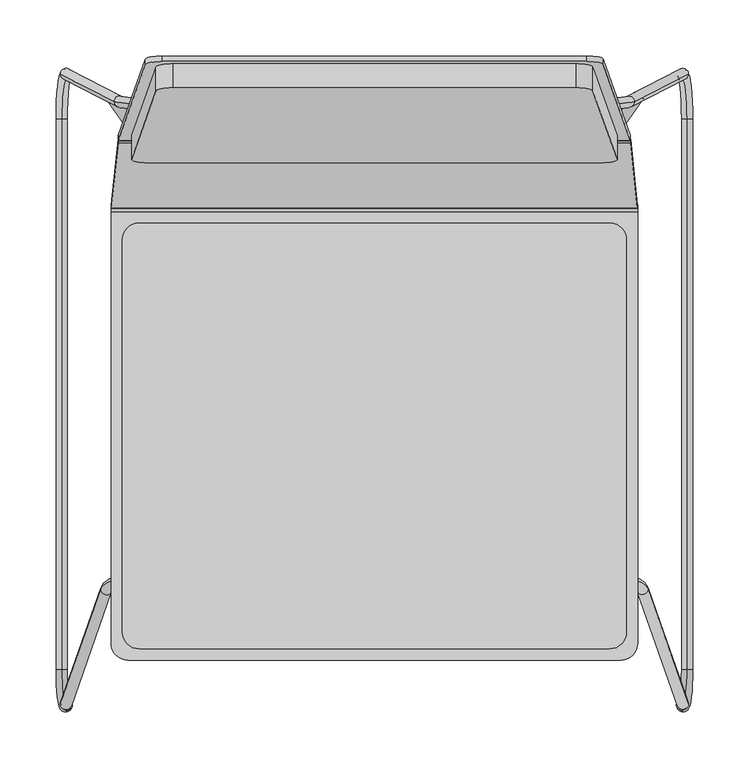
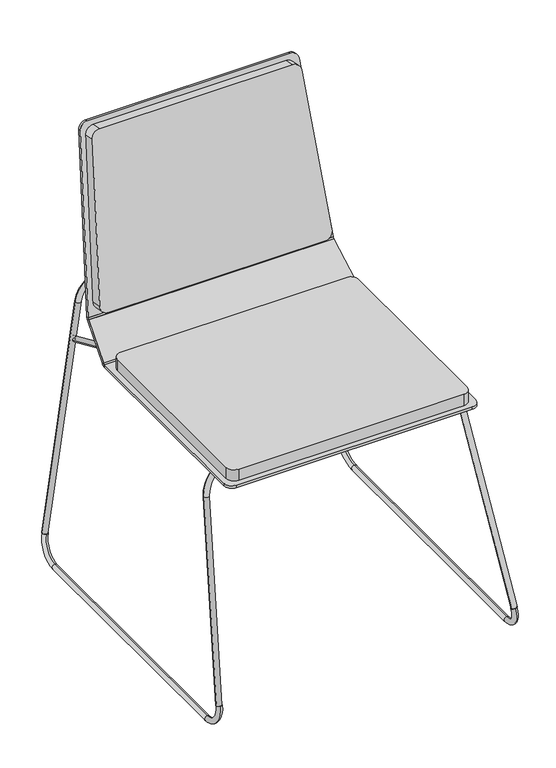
"""IFC4 building model written with IfcOpenShell, lengths in millimetres: furniture geometry, Tom Collection_D : Tom Collection_D."""

from ifc_helpers import new_model, si_unit, point, frame, frame_2d, origin, place, context, project, spatial, polyline, circle_curve, ellipse_curve, trimmed, segment, composite_curve, outline, extrude, source, transform, mapped, element, save
from ifc_brep_helpers import plane_surface, cylinder_surface, revolved_surface, advanced_brep


def furniture_161f1afd(model_context):
    return source(origin(), model_context, "Body", "SolidModel", [
        extrude(outline(composite_curve([segment(polyline([(151.3800041, 160.6409729), (151.3800041, 180.6409694), (178.3800821, 180.6409694)]), True, "CONTINUOUS"), segment(trimmed(circle_curve(frame_2d((178.3800821, 175.6409658)), 5.0000037), [point((178.3800821, 180.6409694))], [point((183.3800858, 175.6409658))], False, "CARTESIAN"), True, "CONTINUOUS"), segment(polyline([(183.3800858, 175.6409658), (183.3800858, 165.6409584)]), True, "CONTINUOUS"), segment(trimmed(circle_curve(frame_2d((178.3801003, 165.6409584)), 4.9999855), [point((183.3800858, 165.6409584))], [point((178.3801003, 160.6409729))], False, "CARTESIAN"), True, "CONTINUOUS"), segment(polyline([(178.3801003, 160.6409729), (151.3800041, 160.6409729)]), True, "CONTINUOUS")], self_intersect=False)), frame((0.0, 0.0, 422.5198024), z_axis=(0.0, 0.0, 1.0), x_axis=(1.0, 0.0, 0.0)), (0.0, 0.0, 1.0), 5.4801849),
        extrude(outline(composite_curve([segment(polyline([(-151.3198334, 160.6409729), (-178.3199295, 160.6409729)]), True, "CONTINUOUS"), segment(trimmed(circle_curve(frame_2d((-178.3199295, 165.6409584)), 4.9999855), [point((-178.3199295, 160.6409729))], [point((-183.319915, 165.6409584))], False, "CARTESIAN"), True, "CONTINUOUS"), segment(polyline([(-183.319915, 165.6409584), (-183.319915, 175.6409658)]), True, "CONTINUOUS"), segment(trimmed(circle_curve(frame_2d((-178.3199113, 175.6409658)), 5.0000037), [point((-183.319915, 175.6409658))], [point((-178.3199113, 180.6409694))], False, "CARTESIAN"), True, "CONTINUOUS"), segment(polyline([(-178.3199113, 180.6409694), (-151.3198334, 180.6409694), (-151.3198334, 160.6409729)]), True, "CONTINUOUS")], self_intersect=False)), frame((0.0, 0.0, 422.5198024), z_axis=(0.0, 0.0, 1.0), x_axis=(1.0, 0.0, 0.0)), (0.0, 0.0, 1.0), 5.4801849),
        extrude(outline(composite_curve([segment(polyline([(-104.9999863, -98.9122531), (-104.9999863, -131.8925156)]), True, "CONTINUOUS"), segment(trimmed(circle_curve(frame_2d((-109.9999718, -131.8925156)), 4.9999855), [point((-104.9999863, -131.8925156))], [point((-109.9999718, -136.8925011))], False, "CARTESIAN"), True, "CONTINUOUS"), segment(polyline([(-109.9999718, -136.8925011), (-119.9999428, -136.8925011)]), True, "CONTINUOUS"), segment(trimmed(circle_curve(frame_2d((-119.9999428, -131.8925156)), 4.9999855), [point((-119.9999428, -136.8925011))], [point((-124.9999283, -131.8925156))], False, "CARTESIAN"), True, "CONTINUOUS"), segment(polyline([(-124.9999283, -131.8925156), (-124.9999283, -98.9122531), (-104.9999863, -98.9122531)]), True, "CONTINUOUS")], self_intersect=False), holes=[polyline([(-114.9999573, -122.8925199), (-119.0000038, -126.8924938), (-114.9999573, -130.892504), (-110.9999107, -126.8924938), (-114.9999573, -122.8925199)])]), frame((0.0, 0.0, 422.5198024), z_axis=(0.0, 0.0, 1.0), x_axis=(1.0, 0.0, 0.0)), (0.0, 0.0, 1.0), 5.4801849),
        extrude(outline(composite_curve([segment(polyline([(124.9999283, -104.7493686), (124.9999283, -131.8925156)]), True, "CONTINUOUS"), segment(trimmed(circle_curve(frame_2d((119.9999428, -131.8925156)), 4.9999855), [point((124.9999283, -131.8925156))], [point((119.9999428, -136.8925011))], False, "CARTESIAN"), True, "CONTINUOUS"), segment(polyline([(119.9999428, -136.8925011), (109.9999718, -136.8925011)]), True, "CONTINUOUS"), segment(trimmed(circle_curve(frame_2d((109.9999718, -131.8925156)), 4.9999855), [point((109.9999718, -136.8925011))], [point((104.9999863, -131.8925156))], False, "CARTESIAN"), True, "CONTINUOUS"), segment(polyline([(104.9999863, -131.8925156), (104.9999863, -104.7493686), (124.9999283, -104.7493686)]), True, "CONTINUOUS")], self_intersect=False), holes=[polyline([(114.9999573, -122.8925199), (110.9999107, -126.8924938), (114.9999573, -130.892504), (119.0000038, -126.8924938), (114.9999573, -122.8925199)])]), frame((0.0, 0.0, 422.5198024), z_axis=(0.0, 0.0, 1.0), x_axis=(1.0, 0.0, 0.0)), (0.0, 0.0, 1.0), 5.4801849),
        extrude(outline(composite_curve([segment(trimmed(circle_curve(frame_2d((422.9704013, -145.8968655)), 5.0), [point((422.9704013, -150.8968655))], [point((422.9704013, -140.8968655))], False, "CARTESIAN"), True, "CONTINUOUS"), segment(trimmed(circle_curve(frame_2d((422.9704013, -145.8968655)), 5.0), [point((422.9704013, -140.8968655))], [point((422.9704013, -150.8968655))], False, "CARTESIAN"), True, "CONTINUOUS")], self_intersect=False)), frame((0.0, -98.9122531, 0.0), z_axis=(0.0, 1.0, 0.0), x_axis=(0.0, 0.0, 1.0)), (0.0, 0.0, 1.0), 298.3148704),
        extrude(outline(composite_curve([segment(trimmed(circle_curve(frame_2d((422.9704013, 145.8963197)), 5.0), [point((422.9704013, 140.8963197))], [point((422.9704013, 150.8963197))], False, "CARTESIAN"), True, "CONTINUOUS"), segment(trimmed(circle_curve(frame_2d((422.9704013, 145.8963197)), 5.0), [point((422.9704013, 150.8963197))], [point((422.9704013, 140.8963197))], False, "CARTESIAN"), True, "CONTINUOUS")], self_intersect=False)), frame((0.0, -98.9122531, 0.0), z_axis=(0.0, 1.0, 0.0), x_axis=(0.0, 0.0, 1.0)), (0.0, 0.0, 1.0), 298.3148704),
        advanced_brep(
        [(-238.920603, 325.3957491, 422.9656305), (-230.7160286, 331.1128252, 422.9656305), (-148.4821106, 195.6074924, 422.9656305), (-143.2619447, 205.6074924, 422.9656305), (148.5817805, 195.6074924, 422.9656305), (143.37611, 205.6074924, 422.9656305), (240.2047177, 326.4586075, 422.9656305), (232.0131973, 332.1943718, 422.9656305)],
        [
            (0, 1, circle_curve(frame((-234.8183158, 328.2542871, 422.9656305), z_axis=(-0.5717076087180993, 0.8204574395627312, 0.0), x_axis=(0.8204574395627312, 0.5717076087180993, 0.0)), 5.0)),
            (1, 0, circle_curve(frame((-234.8183158, 328.2542871, 422.9656305), z_axis=(-0.5717076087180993, 0.8204574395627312, 0.0), x_axis=(0.8204574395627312, 0.5717076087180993, 0.0)), 5.0)),
            (0, 2),
            (2, 3, ellipse_curve(frame((-145.8720276, 200.6074924, 422.9656305), z_axis=(-0.8864839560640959, 0.462759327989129, 0.0), x_axis=(0.4627593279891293, 0.8864839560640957, 0.0)), 5.64026, 5.0)),
            (3, 1),
            (3, 2, ellipse_curve(frame((-145.8720276, 200.6074924, 422.9656305), z_axis=(-0.8864839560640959, 0.462759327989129, 0.0), x_axis=(0.4627593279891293, 0.8864839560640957, 0.0)), 5.64026, 5.0)),
            (2, 4),
            (4, 5, ellipse_curve(frame((145.9789453, 200.6074924, 422.9656305), z_axis=(-0.8870108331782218, -0.46174861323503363, 0.0), x_axis=(-0.4617486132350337, 0.8870108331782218, 0.0)), 5.6369097, 5.0)),
            (5, 3),
            (5, 4, ellipse_curve(frame((145.9789453, 200.6074924, 422.9656305), z_axis=(-0.8870108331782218, -0.46174861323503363, 0.0), x_axis=(-0.4617486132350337, 0.8870108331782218, 0.0)), 5.6369097, 5.0)),
            (6, 7, circle_curve(frame((236.1089575, 329.3264897, 422.9656305), z_axis=(0.5735764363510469, 0.8191520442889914, 0.0), x_axis=(-0.8191520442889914, 0.5735764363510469, 0.0)), 5.0)),
            (7, 6, circle_curve(frame((236.1089575, 329.3264897, 422.9656305), z_axis=(0.5735764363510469, 0.8191520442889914, 0.0), x_axis=(-0.8191520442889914, 0.5735764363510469, 0.0)), 5.0)),
            (4, 6),
            (7, 5),
        ],
        [
            plane_surface(frame((-239.330832, 325.1098951, 2.765625), z_axis=(-0.5717076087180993, 0.8204574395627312, 0.0), x_axis=(0.0, 0.0, 1.0))),
            cylinder_surface(frame((-234.8183158, 328.2542871, 422.9656305), z_axis=(-0.5717076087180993, 0.8204574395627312, 0.0), x_axis=(0.8204574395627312, 0.5717076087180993, 0.0)), 5.0),
            cylinder_surface(frame((-148.7431191, 200.6074924, 422.9656305), z_axis=(-1.0, 0.0, 0.0), x_axis=(0.0, 1.0, 0.0)), 5.0),
            plane_surface(frame((240.6142941, 326.171819, 2.765625), z_axis=(0.5735764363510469, 0.8191520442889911, 0.0), x_axis=(0.0, 0.0, 1.0))),
            cylinder_surface(frame((144.3367277, 198.2621626, 422.9656305), z_axis=(-0.5735764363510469, -0.8191520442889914, 0.0), x_axis=(-0.8191520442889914, 0.5735764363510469, 0.0)), 5.0),
        ],
        [
            (0, [[1, 2]]),
            (1, [[-1, 3, 4, 5]]),
            (1, [[-2, -5, 6, -3]]),
            (2, [[-4, 7, 8, 9]]),
            (2, [[-6, -9, 10, -7]]),
            (3, [[11, 12]]),
            (4, [[-8, 13, -12, 14]]),
            (4, [[-10, -14, -11, -13]]),
        ],
    ),
        extrude(outline(polyline([(6.9942414, 0.0), (6.8397608, -6.9925099), (-0.1544552, -6.9925358), (0.0, 0.0), (6.9942414, 0.0)])), frame((-134.9998993, 331.7734736, 543.518617), z_axis=(0.0, -0.9781481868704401, 0.20790893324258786), x_axis=(0.7148717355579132, -0.1453814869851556, -0.6839756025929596)), (0.0, 0.0, 1.0), 14.9999995),
        extrude(outline(composite_curve([segment(polyline([(310.6293369, 559.0226366), (315.4108806, 557.5608731), (312.6466766, 548.5195414)]), True, "CONTINUOUS"), segment(trimmed(circle_curve(frame_2d((315.5155916, 547.6424287)), 3.0), [point((312.6466766, 548.5195414))], [point((314.8918647, 544.7079842))], True, "CARTESIAN"), True, "CONTINUOUS"), segment(polyline([(314.8918647, 544.7079842), (332.4092105, 540.9846088)]), True, "CONTINUOUS"), segment(trimmed(circle_curve(frame_2d((333.0329374, 543.9190534)), 3.0), [point((332.4092105, 540.9846088))], [point((336.0105759, 543.5534464))], True, "CARTESIAN"), True, "CONTINUOUS"), segment(polyline([(336.0105759, 543.5534464), (337.162768, 552.9373249), (342.1254949, 552.3279152), (340.8402991, 541.8608908)]), True, "CONTINUOUS"), segment(trimmed(circle_curve(frame_2d((333.8924766, 542.7139806)), 7.0), [point((340.8402991, 541.8608908))], [point((332.4369915, 535.8669694))], False, "CARTESIAN"), True, "CONTINUOUS"), segment(polyline([(332.4369915, 535.8669694), (312.7848051, 540.0444803)]), True, "CONTINUOUS"), segment(trimmed(circle_curve(frame_2d((314.2402902, 546.8914915)), 7.0), [point((312.7848051, 540.0444803))], [point((307.5461616, 548.9381091))], False, "CARTESIAN"), True, "CONTINUOUS"), segment(polyline([(307.5461616, 548.9381091), (310.6293369, 559.0226366)]), True, "CONTINUOUS")], self_intersect=False)), frame((-138.0311096, 0.0, 0.0), z_axis=(1.0, 0.0, 0.0), x_axis=(0.0, 1.0, 0.0)), (0.0, 0.0, 1.0), 6.06213),
        advanced_brep(
        [(279.7646296, -183.1313035, -5.439983), (278.6728704, -183.1313035, 4.5002415), (278.6728704, 308.2004149, 4.5002415), (279.7646296, 308.2004149, -5.439983), (274.3813001, -219.5578012, 43.5740305), (274.7021438, -209.9993709, 40.65282), (274.5878256, 353.1354537, 41.6936617), (274.6464672, 343.1498895, 41.1597429)],
        [
            (0, 1, circle_curve(frame((279.21875, -183.1313035, -0.4698707), z_axis=(0.0, 1.0, 0.0), x_axis=(-0.10917592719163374, 0.0, 0.99402244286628)), 5.0)),
            (1, 2),
            (2, 3, circle_curve(frame((279.21875, 308.2004149, -0.4698707), z_axis=(0.0, -1.0, 0.0), x_axis=(-0.10917592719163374, 0.0, 0.99402244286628)), 5.0)),
            (3, 0),
            (1, 0, circle_curve(frame((279.21875, -183.1313035, -0.4698707), z_axis=(0.0, 1.0, 0.0), x_axis=(-0.10917592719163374, 0.0, 0.99402244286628)), 5.0)),
            (3, 2, circle_curve(frame((279.21875, 308.2004149, -0.4698707), z_axis=(0.0, -1.0, 0.0), x_axis=(-0.10917592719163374, 0.0, 0.99402244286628)), 5.0)),
            (4, 5, circle_curve(frame((274.541722, -214.7785861, 42.1134253), z_axis=(-0.10435504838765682, 0.29387771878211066, 0.9501294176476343), x_axis=(0.0320843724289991, 0.9558430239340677, -0.2921210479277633)), 5.0)),
            (5, 4, circle_curve(frame((274.541722, -214.7785861, 42.1134253), z_axis=(-0.10435504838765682, 0.29387771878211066, 0.9501294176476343), x_axis=(0.0320843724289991, 0.9558430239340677, -0.2921210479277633)), 5.0)),
            (0, 4, circle_curve(frame((275.6040127, -183.1313035, 32.4415052), z_axis=(-0.9940224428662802, 0.0, -0.10917592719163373), x_axis=(-0.03208437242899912, -0.9558430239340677, 0.2921210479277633)), 38.1092886)),
            (5, 1, circle_curve(frame((275.6040127, -183.1313035, 32.4415052), z_axis=(0.9940224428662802, 0.0, 0.10917592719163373), x_axis=(-0.03208437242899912, -0.9558430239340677, 0.2921210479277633)), 28.1092886)),
            (6, 7, circle_curve(frame((274.6171464, 348.1426716, 41.4267023), z_axis=(-0.10901832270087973, -0.053712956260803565, 0.9925874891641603), x_axis=(0.005864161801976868, -0.9985564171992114, -0.05339188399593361)), 5.0)),
            (7, 6, circle_curve(frame((274.6171464, 348.1426716, 41.4267023), z_axis=(-0.10901832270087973, -0.053712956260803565, 0.9925874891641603), x_axis=(0.005864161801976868, -0.9985564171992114, -0.05339188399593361)), 5.0)),
            (6, 3, circle_curve(frame((274.8517129, 308.2004149, 39.291027), z_axis=(-0.9940224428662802, 0.0, -0.10917592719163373), x_axis=(0.10917592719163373, 0.0, -0.9940224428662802)), 45.0)),
            (2, 7, circle_curve(frame((274.8517129, 308.2004149, 39.291027), z_axis=(0.9940224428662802, 0.0, 0.10917592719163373), x_axis=(0.10917592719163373, 0.0, -0.9940224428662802)), 35.0)),
        ],
        [
            cylinder_surface(frame((279.21875, -183.1313035, -0.4698707), z_axis=(0.0, -1.0, 0.0), x_axis=(-0.10917592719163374, 0.0, 0.99402244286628)), 5.0),
            plane_surface(frame((-69.1777067, -219.5578012, 5.8401007), z_axis=(-0.10435504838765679, 0.2938777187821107, 0.9501294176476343), x_axis=(-0.9940224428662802, 0.0, -0.10917592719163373))),
            revolved_surface(trimmed(ellipse_curve(frame((274.541722, -214.7785861, 42.1134253), z_axis=(-0.10435504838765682, 0.29387771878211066, 0.9501294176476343), x_axis=(0.0320843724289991, 0.9558430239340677, -0.2921210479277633)), 5.0, 5.0), [point((274.7021438, -209.9993709, 40.65282))], [point((274.3813001, -219.5578012, 43.5740305))], True, "CARTESIAN"), (-67.9549941, -183.1313035, -5.2924246), (0.9940224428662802, 0.0, 0.10917592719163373)),
            revolved_surface(trimmed(ellipse_curve(frame((274.541722, -214.7785861, 42.1134253), z_axis=(-0.10435504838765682, 0.29387771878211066, 0.9501294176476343), x_axis=(0.0320843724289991, 0.9558430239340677, -0.2921210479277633)), 5.0, 5.0), [point((274.3813001, -219.5578012, 43.5740305))], [point((274.7021438, -209.9993709, 40.65282))], True, "CARTESIAN"), (-67.9549941, -183.1313035, -5.2924246), (0.9940224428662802, 0.0, 0.10917592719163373)),
            plane_surface(frame((-68.9711812, 353.1354537, 3.9597319), z_axis=(-0.10901832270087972, -0.053712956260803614, 0.9925874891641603), x_axis=(-0.9940224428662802, 0.0, -0.10917592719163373))),
            revolved_surface(trimmed(ellipse_curve(frame((279.21875, 308.2004149, -0.4698707), z_axis=(0.0, -1.0000000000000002, 0.0), x_axis=(-0.10917592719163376, 0.0, 0.9940224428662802)), 5.0, 5.0), [point((278.6728704, 308.2004149, 4.5002415))], [point((279.7646296, 308.2004149, -5.439983))], True, "CARTESIAN"), (-68.7072939, 308.2004149, 1.5570971), (0.9940224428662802, 0.0, 0.10917592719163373)),
            revolved_surface(trimmed(ellipse_curve(frame((279.21875, 308.2004149, -0.4698707), z_axis=(0.0, -1.0000000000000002, 0.0), x_axis=(-0.10917592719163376, 0.0, 0.9940224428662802)), 5.0, 5.0), [point((279.7646296, 308.2004149, -5.439983))], [point((278.6728704, 308.2004149, 4.5002415))], True, "CARTESIAN"), (-68.7072939, 308.2004149, 1.5570971), (0.9940224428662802, 0.0, 0.10917592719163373)),
        ],
        [
            (0, [[1, 2, 3, 4]]),
            (0, [[5, -4, 6, -2]]),
            (1, [[7, 8]]),
            (2, [[9, -8, 10, -1]]),
            (3, [[-10, -7, -9, -5]]),
            (4, [[11, 12]]),
            (5, [[13, -3, 14, -11]]),
            (6, [[-14, -6, -13, -12]]),
        ],
    ),
        extrude(outline(polyline([(0.0, 0.0), (-0.1544812, -6.9925352), (-7.1487226, -6.9925092), (-6.9942161, 0.0), (0.0, 0.0)])), frame((129.9999138, 330.7566404, 538.7347265), z_axis=(0.0, -0.97814818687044, 0.20790893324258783), x_axis=(-0.714874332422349, 0.14538093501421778, 0.6839730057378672)), (0.0, 0.0, 1.0), 14.9999995),
        extrude(outline(composite_curve([segment(polyline([(310.6293369, 559.0226366), (315.4108806, 557.5608731), (312.6466766, 548.5195414)]), True, "CONTINUOUS"), segment(trimmed(circle_curve(frame_2d((315.5155916, 547.6424287)), 3.0), [point((312.6466766, 548.5195414))], [point((314.8918647, 544.7079842))], True, "CARTESIAN"), True, "CONTINUOUS"), segment(polyline([(314.8918647, 544.7079842), (332.4092105, 540.9846088)]), True, "CONTINUOUS"), segment(trimmed(circle_curve(frame_2d((333.0329374, 543.9190534)), 3.0), [point((332.4092105, 540.9846088))], [point((336.0105759, 543.5534464))], True, "CARTESIAN"), True, "CONTINUOUS"), segment(polyline([(336.0105759, 543.5534464), (337.162768, 552.9373249), (342.1254949, 552.3279152), (340.8402991, 541.8608908)]), True, "CONTINUOUS"), segment(trimmed(circle_curve(frame_2d((333.8924766, 542.7139806)), 7.0), [point((340.8402991, 541.8608908))], [point((332.4369915, 535.8669694))], False, "CARTESIAN"), True, "CONTINUOUS"), segment(polyline([(332.4369915, 535.8669694), (312.7848051, 540.0444803)]), True, "CONTINUOUS"), segment(trimmed(circle_curve(frame_2d((314.2402902, 546.8914915)), 7.0), [point((312.7848051, 540.0444803))], [point((307.5461616, 548.9381091))], False, "CARTESIAN"), True, "CONTINUOUS"), segment(polyline([(307.5461616, 548.9381091), (310.6293369, 559.0226366)]), True, "CONTINUOUS")], self_intersect=False)), frame((131.9689796, 0.0, 0.0), z_axis=(1.0, 0.0, 0.0), x_axis=(0.0, 1.0, 0.0)), (0.0, 0.0, 1.0), 6.06213),
        extrude(outline(composite_curve([segment(polyline([(225.1997776, 427.9999873), (225.1997776, 432.9999873)]), True, "CONTINUOUS"), segment(trimmed(circle_curve(frame_2d((225.1997343, 438.0000551)), 5.0000678), [point((225.1997776, 432.9999873))], [point((228.3463788, 434.1142725))], True, "CARTESIAN"), True, "CONTINUOUS"), segment(polyline([(228.3463788, 434.1142725), (231.4929806, 430.2285426)]), True, "CONTINUOUS"), segment(trimmed(circle_curve(frame_2d((225.1997343, 438.0000551)), 10.0000678), [point((231.4929806, 430.2285426))], [point((225.1997776, 427.9999873))], False, "CARTESIAN"), True, "CONTINUOUS")], self_intersect=False)), frame((-234.9999001, 0.0, 0.0), z_axis=(1.0, 0.0, 0.0), x_axis=(0.0, 1.0, 0.0)), (0.0, 0.0, 1.0), 469.9998001),
        extrude(outline(composite_curve([segment(polyline([(290.1812031, 477.7533246), (287.0346013, 481.6390546)]), True, "CONTINUOUS"), segment(trimmed(circle_curve(frame_2d((283.8879965, 485.5247881)), 5.0000047), [point((287.0346013, 481.6390546))], [point((288.7787366, 484.4852168))], True, "CARTESIAN"), True, "CONTINUOUS"), segment(polyline([(288.7787366, 484.4852168), (293.6694746, 483.4456584)]), True, "CONTINUOUS"), segment(trimmed(circle_curve(frame_2d((283.8879965, 485.5247881)), 10.0000047), [point((293.6694746, 483.4456584))], [point((290.1812031, 477.7533246))], False, "CARTESIAN"), True, "CONTINUOUS")], self_intersect=False)), frame((-228.5985466, 0.0, 0.0), z_axis=(1.0, 0.0, 0.0), x_axis=(0.0, 1.0, 0.0)), (0.0, 0.0, 1.0), 457.1970932),
        extrude(outline(composite_curve([segment(polyline([(-209.999929, 215.2409741), (209.999929, 215.2409741)]), True, "CONTINUOUS"), segment(trimmed(circle_curve(frame_2d((209.999929, 200.2409741)), 15.0), [point((209.999929, 215.2409741))], [point((224.999929, 200.2409741))], False, "CARTESIAN"), True, "CONTINUOUS"), segment(polyline([(224.999929, 200.2409741), (224.999929, -149.7590415)]), True, "CONTINUOUS"), segment(trimmed(circle_curve(frame_2d((209.999929, -149.7590415)), 15.0), [point((224.999929, -149.7590415))], [point((209.999929, -164.7590415))], False, "CARTESIAN"), True, "CONTINUOUS"), segment(polyline([(209.999929, -164.7590415), (-209.999929, -164.7590415)]), True, "CONTINUOUS"), segment(trimmed(circle_curve(frame_2d((-209.999929, -149.7590415)), 15.0), [point((-209.999929, -164.7590415))], [point((-224.999929, -149.7590415))], False, "CARTESIAN"), True, "CONTINUOUS"), segment(polyline([(-224.999929, -149.7590415), (-224.999929, 200.2409741)]), True, "CONTINUOUS"), segment(trimmed(circle_curve(frame_2d((-209.999929, 200.2409741)), 15.0), [point((-224.999929, 200.2409741))], [point((-209.999929, 215.2409741))], False, "CARTESIAN"), True, "CONTINUOUS")], self_intersect=False)), frame((0.0, 0.0, 432.9999873), z_axis=(0.0, 0.0, 1.0), x_axis=(1.0, 0.0, 0.0)), (0.0, 0.0, 1.0), 22.0),
        extrude(outline(composite_curve([segment(polyline([(219.9999001, -174.7590488), (-219.9999001, -174.7590488)]), True, "CONTINUOUS"), segment(trimmed(circle_curve(frame_2d((-219.9999001, -159.7590488)), 15.0), [point((-219.9999001, -174.7590488))], [point((-234.9999001, -159.7590488))], False, "CARTESIAN"), True, "CONTINUOUS"), segment(polyline([(-234.9999001, -159.7590488), (-234.9999001, 225.1997776), (234.9999001, 225.1997776), (234.9999001, -159.7590488)]), True, "CONTINUOUS"), segment(trimmed(circle_curve(frame_2d((219.9999001, -159.7590488)), 15.0), [point((234.9999001, -159.7590488))], [point((219.9999001, -174.7590488))], False, "CARTESIAN"), True, "CONTINUOUS")], self_intersect=False)), frame((0.0, 0.0, 427.9999873), z_axis=(0.0, 0.0, 1.0), x_axis=(1.0, 0.0, 0.0)), (0.0, 0.0, 1.0), 5.0),
        extrude(outline(polyline([(75.7458042, 0.0), (111.2473914, -456.3449567), (36.412918, -468.0594254), (-2.3e-06, 0.0), (75.7458042, 0.0)])), frame((-234.7368347, 231.4929824, 430.228544), z_axis=(0.0, -0.6293203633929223, 0.7771459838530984), x_axis=(0.07756115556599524, 0.7748049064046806, 0.6274245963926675)), (0.0, 0.0, 1.0), 5.0),
        extrude(outline(composite_curve([segment(polyline([(0.0, 0.0), (360.2462353, 0.0)]), True, "CONTINUOUS"), segment(trimmed(circle_curve(frame_2d((360.2462353, -15.0)), 15.0), [point((360.2462353, 0.0))], [point((375.2049877, -13.8883669))], False, "CARTESIAN"), True, "CONTINUOUS"), segment(polyline([(375.2049877, -13.8883669), (396.837561, -304.9882926)]), True, "CONTINUOUS"), segment(trimmed(circle_curve(frame_2d((381.8788087, -306.0999258)), 15.0), [point((396.837561, -304.9882926))], [point((381.8788087, -321.0999257))], False, "CARTESIAN"), True, "CONTINUOUS"), segment(polyline([(381.8788087, -321.0999257), (-21.6325725, -321.0999257)]), True, "CONTINUOUS"), segment(trimmed(circle_curve(frame_2d((-21.6325725, -306.0999258)), 15.0), [point((-21.6325725, -321.0999257))], [point((-36.5913249, -304.9882927))], False, "CARTESIAN"), True, "CONTINUOUS"), segment(polyline([(-36.5913249, -304.9882927), (-14.9587524, -13.8883669)]), True, "CONTINUOUS"), segment(trimmed(circle_curve(frame_2d((0.0, -15.0)), 15.0), [point((-14.9587524, -13.8883669))], [point((0.0, 0.0))], False, "CARTESIAN"), True, "CONTINUOUS")], self_intersect=False)), frame((-180.1239897, 357.3810176, 807.2335896), z_axis=(0.0, -0.978147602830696, 0.2079116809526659), x_axis=(1.0, 0.0, 0.0)), (0.0, 0.0, 1.0), 21.9999911),
        extrude(outline(composite_curve([segment(trimmed(circle_curve(frame_2d((326.9695314, -15.0)), 15.0), [point((326.9695314, 0.0))], [point((341.9282843, -13.8883737))], False, "CARTESIAN"), True, "CONTINUOUS"), segment(polyline([(341.9282843, -13.8883737), (370.0018283, -391.6638951)]), True, "CONTINUOUS"), segment(trimmed(circle_curve(frame_2d((355.0430754, -392.7755214)), 15.0), [point((370.0018283, -391.6638951))], [point((357.2602145, -407.6107596))], False, "CARTESIAN"), True, "CONTINUOUS"), segment(polyline([(357.2602145, -407.6107596), (33.8821544, -455.9398882), (0.0, 0.0), (326.9695314, 0.0)]), True, "CONTINUOUS")], self_intersect=False)), frame((-228.5985466, 293.6694746, 483.4456584), z_axis=(0.0, -0.9781476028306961, 0.20791168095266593), x_axis=(0.07410842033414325, 0.20733996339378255, 0.9754578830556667)), (0.0, 0.0, 1.0), 5.0),
        advanced_brep(
        [(189.6380224, -100.1012835, 417.6362552), (189.6380224, -97.1961495, 427.2049644), (-189.5610502, -97.1961495, 427.2049644), (-189.5610502, -100.1012835, 417.6362552), (280.3963078, -214.0069891, 42.4623204), (270.4481259, -214.3023536, 41.4894712), (244.3530231, -111.5498818, 379.9277343), (234.4048412, -111.8452464, 378.9548851), (-234.3277103, -111.8447951, 378.9563713), (-244.2758569, -111.5493303, 379.9295508), (-280.3313789, -214.0060768, 42.4653252), (-270.3832322, -214.3015416, 41.4921458)],
        [
            (0, 1, circle_curve(frame((189.6380224, -98.6487165, 422.4206098), z_axis=(-1.0, 0.0, 0.0), x_axis=(0.0, -0.2905134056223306, -0.9568709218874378)), 5.0)),
            (1, 2),
            (2, 3, circle_curve(frame((-189.5610502, -98.6487165, 422.4206098), z_axis=(1.0, 0.0, 0.0), x_axis=(0.0, -0.2905134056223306, -0.9568709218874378)), 5.0)),
            (3, 0),
            (1, 0, circle_curve(frame((189.6380224, -98.6487165, 422.4206098), z_axis=(-1.0, 0.0, 0.0), x_axis=(0.0, -0.2905134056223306, -0.9568709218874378)), 5.0)),
            (3, 2, circle_curve(frame((-189.5610502, -98.6487165, 422.4206098), z_axis=(1.0, 0.0, 0.0), x_axis=(0.0, -0.2905134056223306, -0.9568709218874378)), 5.0)),
            (4, 5, circle_curve(frame((275.4222168, -214.1546713, 41.9758958), z_axis=(0.10166984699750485, -0.28900802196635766, -0.951912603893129), x_axis=(-0.9948181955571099, -0.029536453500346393, -0.09728492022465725)), 5.0)),
            (5, 4, circle_curve(frame((275.4222168, -214.1546713, 41.9758958), z_axis=(0.10166984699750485, -0.28900802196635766, -0.951912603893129), x_axis=(-0.9948181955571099, -0.029536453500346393, -0.09728492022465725)), 5.0)),
            (4, 6),
            (6, 7, circle_curve(frame((239.3789321, -111.6975641, 379.4413097), z_axis=(0.10166984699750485, -0.28900802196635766, -0.951912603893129), x_axis=(-0.9948181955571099, -0.029536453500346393, -0.09728492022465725)), 5.0)),
            (7, 5),
            (7, 6, circle_curve(frame((239.3789321, -111.6975641, 379.4413097), z_axis=(0.10166984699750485, -0.28900802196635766, -0.951912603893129), x_axis=(-0.9948181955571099, -0.029536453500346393, -0.09728492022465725)), 5.0)),
            (0, 7, circle_curve(frame((189.6380224, -113.1743868, 374.5770637), z_axis=(0.0, 0.9568709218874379, -0.29051340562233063), x_axis=(0.9948181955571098, 0.029536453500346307, 0.09728492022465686)), 45.0)),
            (6, 1, circle_curve(frame((189.6380224, -113.1743868, 374.5770637), z_axis=(0.0, -0.9568709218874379, 0.29051340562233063), x_axis=(0.9948181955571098, 0.029536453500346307, 0.09728492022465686)), 55.0)),
            (8, 3, circle_curve(frame((-189.5610502, -113.1743868, 374.5770637), z_axis=(0.0, 0.9568709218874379, -0.29051340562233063), x_axis=(0.0, 0.29051340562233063, 0.9568709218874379)), 45.0)),
            (2, 9, circle_curve(frame((-189.5610502, -113.1743868, 374.5770637), z_axis=(0.0, -0.9568709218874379, 0.29051340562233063), x_axis=(0.0, 0.29051340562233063, 0.9568709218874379)), 55.0)),
            (9, 8, circle_curve(frame((-239.3017836, -111.6970627, 379.442961), z_axis=(0.10170436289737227, 0.28900699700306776, 0.951909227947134), x_axis=(0.9948146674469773, -0.029546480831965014, -0.09731794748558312)), 5.0)),
            (8, 9, circle_curve(frame((-239.3017836, -111.6970627, 379.442961), z_axis=(0.10170436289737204, 0.28900699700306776, 0.951909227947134), x_axis=(0.9948146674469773, -0.029546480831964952, -0.09731794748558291)), 5.0)),
            (10, 11, circle_curve(frame((-275.3573055, -214.1538092, 41.9787355), z_axis=(-0.10170436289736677, -0.28900699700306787, -0.9519092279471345), x_axis=(0.9948146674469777, -0.029546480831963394, -0.09731794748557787)), 5.0)),
            (11, 10, circle_curve(frame((-275.3573055, -214.1538092, 41.9787355), z_axis=(-0.10170436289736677, -0.28900699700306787, -0.9519092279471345), x_axis=(0.9948146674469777, -0.029546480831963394, -0.09731794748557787)), 5.0)),
            (9, 10),
            (11, 8),
        ],
        [
            cylinder_surface(frame((189.6380224, -98.6487165, 422.4206098), z_axis=(1.0, 0.0, 0.0), x_axis=(0.0, -0.2905134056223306, -0.9568709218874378)), 5.0),
            plane_surface(frame((280.3963078, 15.34301, -27.1701115), z_axis=(0.10166984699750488, -0.2890080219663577, -0.9519126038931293), x_axis=(0.0, -0.9568709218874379, 0.29051340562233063))),
            cylinder_surface(frame((275.4222168, -214.1546713, 41.9758958), z_axis=(0.10166984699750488, -0.2890080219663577, -0.9519126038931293), x_axis=(-0.9948181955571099, -0.029536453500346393, -0.09728492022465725)), 5.0),
            revolved_surface(trimmed(ellipse_curve(frame((239.3789321, -111.6975641, 379.4413097), z_axis=(0.10166984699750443, -0.28900802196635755, -0.9519126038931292), x_axis=(-0.9948181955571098, -0.029536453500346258, -0.09728492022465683)), 5.0, 5.0), [point((244.3530231, -111.5498818, 379.9277343))], [point((234.4048412, -111.8452464, 378.9548851))], True, "CARTESIAN"), (189.6380224, 116.1756123, 304.9446318), (0.0, -0.9568709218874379, 0.29051340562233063)),
            revolved_surface(trimmed(ellipse_curve(frame((239.3789321, -111.6975641, 379.4413097), z_axis=(0.10166984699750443, -0.28900802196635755, -0.9519126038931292), x_axis=(-0.9948181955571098, -0.029536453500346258, -0.09728492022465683)), 5.0, 5.0), [point((234.4048412, -111.8452464, 378.9548851))], [point((244.3530231, -111.5498818, 379.9277343))], True, "CARTESIAN"), (189.6380224, 116.1756123, 304.9446318), (0.0, -0.9568709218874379, 0.29051340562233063)),
            revolved_surface(trimmed(ellipse_curve(frame((-189.5610502, -98.6487165, 422.4206098), z_axis=(1.0000000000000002, 0.0, 0.0), x_axis=(0.0, -0.29051340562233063, -0.9568709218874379)), 5.0, 5.0), [point((-189.5610502, -97.1961495, 427.2049644))], [point((-189.5610502, -100.1012835, 417.6362552))], True, "CARTESIAN"), (-189.5610502, 116.1756123, 304.9446318), (0.0, -0.9568709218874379, 0.29051340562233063)),
            revolved_surface(trimmed(ellipse_curve(frame((-189.5610502, -98.6487165, 422.4206098), z_axis=(1.0000000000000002, 0.0, 0.0), x_axis=(0.0, -0.29051340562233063, -0.9568709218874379)), 5.0, 5.0), [point((-189.5610502, -100.1012835, 417.6362552))], [point((-189.5610502, -97.1961495, 427.2049644))], True, "CARTESIAN"), (-189.5610502, 116.1756123, 304.9446318), (0.0, -0.9568709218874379, 0.29051340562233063)),
            plane_surface(frame((-280.3313789, 15.3439223, -27.1671067), z_axis=(-0.10170436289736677, -0.2890069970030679, -0.9519092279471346), x_axis=(0.0, -0.9568709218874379, 0.29051340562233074))),
            cylinder_surface(frame((-239.3017836, -111.6970627, 379.442961), z_axis=(0.10170436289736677, 0.28900699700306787, 0.9519092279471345), x_axis=(0.9948146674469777, -0.029546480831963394, -0.09731794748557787)), 5.0),
        ],
        [
            (0, [[1, 2, 3, 4]]),
            (0, [[5, -4, 6, -2]]),
            (1, [[7, 8]]),
            (2, [[-7, 9, 10, 11]]),
            (2, [[-8, -11, 12, -9]]),
            (3, [[13, -10, 14, -1]]),
            (4, [[-14, -12, -13, -5]]),
            (5, [[15, -3, 16, 17]]),
            (6, [[-16, -6, -15, 18]]),
            (7, [[19, 20]]),
            (8, [[-17, 21, -20, 22]]),
            (8, [[-18, -22, -19, -21]]),
        ],
    ),
        advanced_brep(
        [(-278.6728704, -183.1313035, 4.5002415), (-279.7646296, -183.1313035, -5.439983), (-279.7646296, 308.2004149, -5.439983), (-278.6728704, 308.2004149, 4.5002415), (-274.3813001, -219.5578012, 43.5740305), (-274.7021438, -209.9993709, 40.65282), (-274.5878256, 353.1354537, 41.6936617), (-274.6464672, 343.1498895, 41.1597429)],
        [
            (0, 1, circle_curve(frame((-279.21875, -183.1313035, -0.4698707), z_axis=(0.0, 1.0, 0.0), x_axis=(0.10917592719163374, 0.0, 0.99402244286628)), 5.0)),
            (1, 2),
            (2, 3, circle_curve(frame((-279.21875, 308.2004149, -0.4698707), z_axis=(0.0, -1.0, 0.0), x_axis=(0.10917592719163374, 0.0, 0.99402244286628)), 5.0)),
            (3, 0),
            (1, 0, circle_curve(frame((-279.21875, -183.1313035, -0.4698707), z_axis=(0.0, 1.0, 0.0), x_axis=(0.10917592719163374, 0.0, 0.99402244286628)), 5.0)),
            (3, 2, circle_curve(frame((-279.21875, 308.2004149, -0.4698707), z_axis=(0.0, -1.0, 0.0), x_axis=(0.10917592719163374, 0.0, 0.99402244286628)), 5.0)),
            (4, 5, circle_curve(frame((-274.541722, -214.7785861, 42.1134253), z_axis=(0.10435504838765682, 0.29387771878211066, 0.9501294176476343), x_axis=(-0.0320843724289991, 0.9558430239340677, -0.2921210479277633)), 5.0)),
            (5, 4, circle_curve(frame((-274.541722, -214.7785861, 42.1134253), z_axis=(0.10435504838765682, 0.29387771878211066, 0.9501294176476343), x_axis=(-0.0320843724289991, 0.9558430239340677, -0.2921210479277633)), 5.0)),
            (0, 5, circle_curve(frame((-275.6040127, -183.1313035, 32.4415052), z_axis=(-0.9940224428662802, 0.0, 0.10917592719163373), x_axis=(0.03208437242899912, -0.9558430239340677, 0.2921210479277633)), 28.1092886)),
            (4, 1, circle_curve(frame((-275.6040127, -183.1313035, 32.4415052), z_axis=(0.9940224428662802, 0.0, -0.10917592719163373), x_axis=(0.03208437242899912, -0.9558430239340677, 0.2921210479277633)), 38.1092886)),
            (6, 7, circle_curve(frame((-274.6171464, 348.1426716, 41.4267023), z_axis=(0.10901832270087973, -0.053712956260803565, 0.9925874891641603), x_axis=(-0.005864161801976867, -0.9985564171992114, -0.0533918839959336)), 5.0)),
            (7, 6, circle_curve(frame((-274.6171464, 348.1426716, 41.4267023), z_axis=(0.10901832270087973, -0.053712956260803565, 0.9925874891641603), x_axis=(-0.005864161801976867, -0.9985564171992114, -0.0533918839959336)), 5.0)),
            (7, 3, circle_curve(frame((-274.8517129, 308.2004149, 39.291027), z_axis=(-0.9940224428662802, 0.0, 0.10917592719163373), x_axis=(-0.10917592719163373, 0.0, -0.9940224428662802)), 35.0)),
            (2, 6, circle_curve(frame((-274.8517129, 308.2004149, 39.291027), z_axis=(0.9940224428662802, 0.0, -0.10917592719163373), x_axis=(-0.10917592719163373, 0.0, -0.9940224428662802)), 45.0)),
        ],
        [
            cylinder_surface(frame((-279.21875, -183.1313035, -0.4698707), z_axis=(0.0, -1.0, 0.0), x_axis=(0.10917592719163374, 0.0, 0.99402244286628)), 5.0),
            plane_surface(frame((69.1777067, -219.5578012, 5.8401007), z_axis=(0.10435504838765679, 0.2938777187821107, 0.9501294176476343), x_axis=(0.9940224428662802, 0.0, -0.10917592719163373))),
            revolved_surface(trimmed(ellipse_curve(frame((-274.541722, -214.7785861, 42.1134253), z_axis=(0.10435504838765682, 0.29387771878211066, 0.9501294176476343), x_axis=(-0.0320843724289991, 0.9558430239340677, -0.2921210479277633)), 5.0, 5.0), [point((-274.3813001, -219.5578012, 43.5740305))], [point((-274.7021438, -209.9993709, 40.65282))], True, "CARTESIAN"), (67.9549941, -183.1313035, -5.2924246), (0.9940224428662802, 0.0, -0.10917592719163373)),
            revolved_surface(trimmed(ellipse_curve(frame((-274.541722, -214.7785861, 42.1134253), z_axis=(0.10435504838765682, 0.29387771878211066, 0.9501294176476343), x_axis=(-0.0320843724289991, 0.9558430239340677, -0.2921210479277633)), 5.0, 5.0), [point((-274.7021438, -209.9993709, 40.65282))], [point((-274.3813001, -219.5578012, 43.5740305))], True, "CARTESIAN"), (67.9549941, -183.1313035, -5.2924246), (0.9940224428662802, 0.0, -0.10917592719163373)),
            plane_surface(frame((68.9711812, 353.1354537, 3.9597319), z_axis=(0.10901832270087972, -0.053712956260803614, 0.9925874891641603), x_axis=(0.9940224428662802, 0.0, -0.10917592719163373))),
            revolved_surface(trimmed(ellipse_curve(frame((-279.21875, 308.2004149, -0.4698707), z_axis=(0.0, -1.0000000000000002, 0.0), x_axis=(0.10917592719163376, 0.0, 0.9940224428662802)), 5.0, 5.0), [point((-279.7646296, 308.2004149, -5.439983))], [point((-278.6728704, 308.2004149, 4.5002415))], True, "CARTESIAN"), (68.7072939, 308.2004149, 1.5570971), (0.9940224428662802, 0.0, -0.10917592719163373)),
            revolved_surface(trimmed(ellipse_curve(frame((-279.21875, 308.2004149, -0.4698707), z_axis=(0.0, -1.0000000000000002, 0.0), x_axis=(0.10917592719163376, 0.0, 0.9940224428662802)), 5.0, 5.0), [point((-278.6728704, 308.2004149, 4.5002415))], [point((-279.7646296, 308.2004149, -5.439983))], True, "CARTESIAN"), (68.7072939, 308.2004149, 1.5570971), (0.9940224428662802, 0.0, -0.10917592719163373)),
        ],
        [
            (0, [[1, 2, 3, 4]]),
            (0, [[5, -4, 6, -2]]),
            (1, [[7, 8]]),
            (2, [[9, -7, 10, -1]]),
            (3, [[-10, -8, -9, -5]]),
            (4, [[11, 12]]),
            (5, [[13, -3, 14, -12]]),
            (6, [[-14, -6, -13, -11]]),
        ],
    ),
        advanced_brep(
        [(280.3462293, 348.3741534, 41.8568766), (270.4010105, 348.4308385, 40.8131291), (232.4721476, 323.6731992, 496.6776492), (222.5269287, 323.7298843, 495.6339017), (177.7734439, 321.5446492, 535.8708209), (177.7734439, 321.0023563, 545.8561059), (-177.7109261, 321.0023563, 545.8561059), (-177.7109261, 321.5446492, 535.8708209), (-222.4644114, 323.7298845, 495.6338973), (-232.4096304, 323.6731995, 496.6776438), (-280.2836672, 348.374154, 41.8568665), (-270.3384482, 348.430839, 40.81312)],
        [
            (0, 1, circle_curve(frame((275.3736199, 348.402496, 41.3350029), z_axis=(0.10452856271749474, 0.05393221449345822, -0.9930584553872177), x_axis=(-0.9945218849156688, 0.005668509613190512, -0.10437474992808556)), 5.0)),
            (1, 0, circle_curve(frame((275.3736199, 348.402496, 41.3350029), z_axis=(0.10452856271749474, 0.05393221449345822, -0.9930584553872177), x_axis=(-0.9945218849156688, 0.005668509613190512, -0.10437474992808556)), 5.0)),
            (0, 2),
            (2, 3, circle_curve(frame((227.4995382, 323.7015417, 496.1557754), z_axis=(0.10452856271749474, 0.05393221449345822, -0.9930584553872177), x_axis=(-0.9945218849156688, 0.005668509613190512, -0.10437474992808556)), 5.0)),
            (3, 1),
            (3, 2, circle_curve(frame((227.4995382, 323.7015417, 496.1557754), z_axis=(0.10452856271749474, 0.05393221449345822, -0.9930584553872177), x_axis=(-0.9945218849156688, 0.005668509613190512, -0.10437474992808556)), 5.0)),
            (4, 3, circle_curve(frame((177.7734439, 323.9849672, 490.9370379), z_axis=(0.0, 0.9985285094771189, 0.054229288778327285), x_axis=(0.9945218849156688, -0.005668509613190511, 0.10437474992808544)), 45.0)),
            (2, 5, circle_curve(frame((177.7734439, 323.9849672, 490.9370379), z_axis=(0.0, -0.9985285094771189, -0.054229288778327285), x_axis=(0.9945218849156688, -0.005668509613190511, 0.10437474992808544)), 55.0)),
            (5, 4, circle_curve(frame((177.7734439, 321.2735028, 540.8634634), z_axis=(1.0, 0.0, 0.0), x_axis=(0.0, 0.054229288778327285, -0.998528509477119)), 5.0)),
            (4, 5, circle_curve(frame((177.7734439, 321.2735028, 540.8634634), z_axis=(1.0, 0.0, 0.0), x_axis=(0.0, 0.05422928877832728, -0.9985285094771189)), 5.0)),
            (5, 6),
            (6, 7, circle_curve(frame((-177.7109261, 321.2735028, 540.8634634), z_axis=(1.0, 0.0, 0.0), x_axis=(0.0, 0.05422928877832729, -0.998528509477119)), 5.0)),
            (7, 4),
            (7, 6, circle_curve(frame((-177.7109261, 321.2735028, 540.8634634), z_axis=(1.0, 0.0, 0.0), x_axis=(0.0, 0.05422928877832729, -0.998528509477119)), 5.0)),
            (8, 7, circle_curve(frame((-177.7109261, 323.9849672, 490.9370379), z_axis=(0.0, 0.9985285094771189, 0.054229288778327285), x_axis=(0.0, -0.054229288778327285, 0.9985285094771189)), 45.0)),
            (6, 9, circle_curve(frame((-177.7109261, 323.9849672, 490.9370379), z_axis=(0.0, -0.9985285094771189, -0.054229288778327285), x_axis=(0.0, -0.054229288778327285, 0.9985285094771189)), 55.0)),
            (9, 8, circle_curve(frame((-227.4370209, 323.701542, 496.1557705), z_axis=(0.10452846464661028, -0.053932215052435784, 0.9930584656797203), x_axis=(0.9945218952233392, 0.005668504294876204, -0.10437465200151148)), 5.0)),
            (8, 9, circle_curve(frame((-227.4370209, 323.701542, 496.1557705), z_axis=(0.10452846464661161, -0.05393221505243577, 0.9930584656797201), x_axis=(0.994521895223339, 0.005668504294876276, -0.10437465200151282)), 5.0)),
            (10, 11, circle_curve(frame((-275.3110577, 348.4024965, 41.3349932), z_axis=(-0.1045284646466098, 0.053932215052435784, -0.9930584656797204), x_axis=(0.9945218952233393, 0.005668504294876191, -0.104374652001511)), 5.0)),
            (11, 10, circle_curve(frame((-275.3110577, 348.4024965, 41.3349932), z_axis=(-0.1045284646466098, 0.053932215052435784, -0.9930584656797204), x_axis=(0.9945218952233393, 0.005668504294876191, -0.104374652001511)), 5.0)),
            (9, 10),
            (11, 8),
        ],
        [
            plane_surface(frame((280.3462293, 86.5489917, 27.6373604), z_axis=(0.10452856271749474, 0.05393221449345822, -0.9930584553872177), x_axis=(0.0, -0.998528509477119, -0.05422928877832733))),
            cylinder_surface(frame((275.3736199, 348.402496, 41.3350029), z_axis=(0.10452856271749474, 0.05393221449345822, -0.9930584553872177), x_axis=(-0.9945218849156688, 0.005668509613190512, -0.10437474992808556)), 5.0),
            revolved_surface(trimmed(ellipse_curve(frame((227.4995382, 323.7015417, 496.1557754), z_axis=(0.10452856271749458, 0.05393221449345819, -0.9930584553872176), x_axis=(-0.9945218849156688, 0.005668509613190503, -0.1043747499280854)), 5.0, 5.0), [point((232.4721476, 323.6731992, 496.6776492))], [point((222.5269287, 323.7298843, 495.6339017))], True, "CARTESIAN"), (177.7734439, 62.1598054, 476.7175217), (0.0, -0.9985285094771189, -0.054229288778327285)),
            revolved_surface(trimmed(ellipse_curve(frame((227.4995382, 323.7015417, 496.1557754), z_axis=(0.10452856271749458, 0.05393221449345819, -0.9930584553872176), x_axis=(-0.9945218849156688, 0.005668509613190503, -0.1043747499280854)), 5.0, 5.0), [point((222.5269287, 323.7298843, 495.6339017))], [point((232.4721476, 323.6731992, 496.6776492))], True, "CARTESIAN"), (177.7734439, 62.1598054, 476.7175217), (0.0, -0.9985285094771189, -0.054229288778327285)),
            cylinder_surface(frame((177.7734439, 321.2735028, 540.8634634), z_axis=(1.0, 0.0, 0.0), x_axis=(0.0, 0.05422928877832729, -0.998528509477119)), 5.0),
            revolved_surface(trimmed(ellipse_curve(frame((-177.7109261, 321.2735028, 540.8634634), z_axis=(1.0, 0.0, 0.0), x_axis=(0.0, 0.054229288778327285, -0.9985285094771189)), 5.0, 5.0), [point((-177.7109261, 321.0023563, 545.8561059))], [point((-177.7109261, 321.5446492, 535.8708209))], True, "CARTESIAN"), (-177.7109261, 62.1598054, 476.7175217), (0.0, -0.9985285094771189, -0.054229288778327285)),
            revolved_surface(trimmed(ellipse_curve(frame((-177.7109261, 321.2735028, 540.8634634), z_axis=(1.0, 0.0, 0.0), x_axis=(0.0, 0.054229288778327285, -0.9985285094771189)), 5.0, 5.0), [point((-177.7109261, 321.5446492, 535.8708209))], [point((-177.7109261, 321.0023563, 545.8561059))], True, "CARTESIAN"), (-177.7109261, 62.1598054, 476.7175217), (0.0, -0.9985285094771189, -0.054229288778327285)),
            plane_surface(frame((-280.2836672, 86.5489922, 27.6373503), z_axis=(-0.10452846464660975, 0.053932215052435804, -0.9930584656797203), x_axis=(0.0, -0.9985285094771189, -0.05422928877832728))),
            cylinder_surface(frame((-227.4370209, 323.701542, 496.1557705), z_axis=(0.1045284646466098, -0.053932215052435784, 0.9930584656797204), x_axis=(0.9945218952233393, 0.005668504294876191, -0.104374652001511)), 5.0),
        ],
        [
            (0, [[1, 2]]),
            (1, [[-1, 3, 4, 5]]),
            (1, [[-2, -5, 6, -3]]),
            (2, [[7, -4, 8, 9]]),
            (3, [[-8, -6, -7, 10]]),
            (4, [[-9, 11, 12, 13]]),
            (4, [[-10, -13, 14, -11]]),
            (5, [[15, -12, 16, 17]]),
            (6, [[-16, -14, -15, 18]]),
            (7, [[19, 20]]),
            (8, [[-17, 21, -20, 22]]),
            (8, [[-18, -22, -19, -21]]),
        ],
    ),
    ])


if __name__ == "__main__":
    model = new_model("IFC4")
    model_context = context("Model", 3, world=origin())
    ifc_project = project(units=[si_unit("LENGTHUNIT", "METRE", prefix="MILLI")], contexts=[model_context])
    site = spatial("IfcSite", under=ifc_project)
    building = spatial("IfcBuilding", under=site)
    placement = place(None, origin())
    furniture_shape = furniture_161f1afd(model_context)
    element("IfcFurniture", 1, ObjectType="Tom Collection_D : Tom Collection_D", at=placement, inside=building, context=model_context, shape_type="MappedRepresentation", body=[
        mapped(furniture_shape, transform((0.0, 0.0, 0.0), x_axis=(1.0, 0.0, 0.0), y_axis=(0.0, 1.0, 0.0), z_axis=(0.0, 0.0, 1.0))),
    ])
    save(model, "model.ifc")
